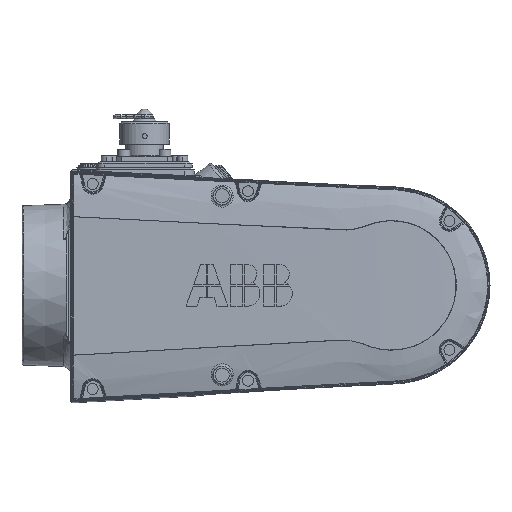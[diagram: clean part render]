
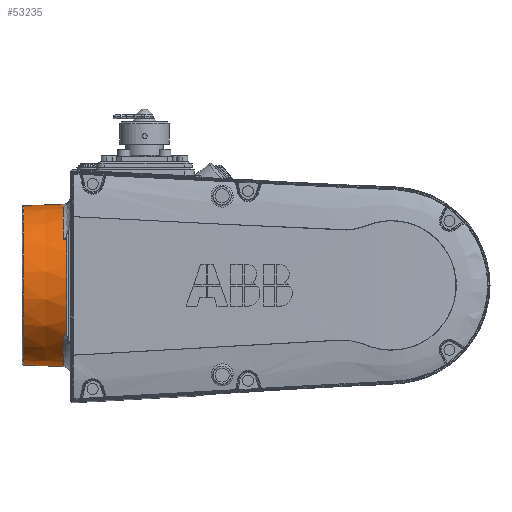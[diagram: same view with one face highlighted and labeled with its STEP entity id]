
A CAD part, front view. The second image highlights one B-rep face of the part: STEP entity #53235.
In plain terms, the highlighted conical face has half-angle 2 degrees and reference radius 40.786 mm.
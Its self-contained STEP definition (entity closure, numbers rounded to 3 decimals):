
#39 = EDGE_CURVE ( 'NONE', #16991, #3670, #37502, .T. ) ;
#52 = CARTESIAN_POINT ( 'NONE',  ( 286.555, -31.433, 863.189 ) ) ;
#95 = VECTOR ( 'NONE', #19401, 1000. ) ;
#313 = CARTESIAN_POINT ( 'NONE',  ( 286.583, -31.488, 863.255 ) ) ;
#814 = CARTESIAN_POINT ( 'NONE',  ( 287.29, -33.628, 912.136 ) ) ;
#1088 = CARTESIAN_POINT ( 'NONE',  ( 286.69, -33.524, 912.249 ) ) ;
#3660 = CARTESIAN_POINT ( 'NONE',  ( 287.991, -33.674, 912.111 ) ) ;
#3670 = VERTEX_POINT ( 'NONE', #8361 ) ;
#3866 = CARTESIAN_POINT ( 'NONE',  ( 287.118, -32.314, 864.264 ) ) ;
#5169 = CARTESIAN_POINT ( 'NONE',  ( 287.41, -33.641, 912.123 ) ) ;
#6444 = DIRECTION ( 'NONE',  ( 1., 0., 0. ) ) ;
#7418 = CARTESIAN_POINT ( 'NONE',  ( 287.411, -32.662, 864.703 ) ) ;
#7532 = ORIENTED_EDGE ( 'NONE', *, *, #8218, .F. ) ;
#7936 = CARTESIAN_POINT ( 'NONE',  ( 286.902, -32.027, 863.908 ) ) ;
#8218 = EDGE_CURVE ( 'NONE', #16991, #50795, #43538, .T. ) ;
#8361 = CARTESIAN_POINT ( 'NONE',  ( 266.456, 0., 849.066 ) ) ;
#9066 = CARTESIAN_POINT ( 'NONE',  ( 286.131, 0., 929.821 ) ) ;
#9221 = CARTESIAN_POINT ( 'NONE',  ( 287.153, -33.607, 912.157 ) ) ;
#9687 = CARTESIAN_POINT ( 'NONE',  ( 287.991, 0., 848.314 ) ) ;
#9755 = CARTESIAN_POINT ( 'NONE',  ( 287.038, -33.588, 912.178 ) ) ;
#10473 = VERTEX_POINT ( 'NONE', #10752 ) ;
#10644 = VERTEX_POINT ( 'NONE', #50000 ) ;
#10752 = CARTESIAN_POINT ( 'NONE',  ( 286.131, -33.318, 912.512 ) ) ;
#11864 = DIRECTION ( 'NONE',  ( -1., 0., 0. ) ) ;
#12007 = VERTEX_POINT ( 'NONE', #40667 ) ;
#13236 = DIRECTION ( 'NONE',  ( 0.999, 0., -0.035 ) ) ;
#13516 = DIRECTION ( 'NONE',  ( -1., 0., 0. ) ) ;
#13562 = CONICAL_SURFACE ( 'NONE', #41256, 40.786, 0.035 ) ;
#13834 = CARTESIAN_POINT ( 'NONE',  ( 287.056, -33.591, 912.175 ) ) ;
#15269 = DIRECTION ( 'NONE',  ( 0., 0., 1. ) ) ;
#15587 = ORIENTED_EDGE ( 'NONE', *, *, #32654, .T. ) ;
#15610 = B_SPLINE_CURVE_WITH_KNOTS ( 'NONE', 3,
 ( #40992, #40715, #28816, #48887, #20398, #32872, #36934, #28296, #20910, #52, #29086, #313, #49679, #41513, #7936, #40456, #16330, #3866, #16868, #28546, #19860, #7418, #44798, #53460 ),
 .UNSPECIFIED., .F., .F.,
 ( 4, 2, 2, 1, 1, 1, 2, 2, 2, 1, 1, 1, 2, 2, 4 ),
 ( 0., 0.125, 0.25, 0.375, 0.437, 0.469, 0.484, 0.5, 0.625, 0.687, 0.719, 0.734, 0.742, 0.75, 1. ),
 .UNSPECIFIED. ) ;
#16330 = CARTESIAN_POINT ( 'NONE',  ( 287.07, -32.254, 864.19 ) ) ;
#16868 = CARTESIAN_POINT ( 'NONE',  ( 287.139, -32.339, 864.296 ) ) ;
#16991 = VERTEX_POINT ( 'NONE', #29611 ) ;
#17015 = ORIENTED_EDGE ( 'NONE', *, *, #33010, .T. ) ;
#17351 = CARTESIAN_POINT ( 'NONE',  ( 286.394, -33.436, 912.36 ) ) ;
#18108 = AXIS2_PLACEMENT_3D ( 'NONE', #49604, #32549, #53127 ) ;
#18648 = DIRECTION ( 'NONE',  ( 0., 0., 1. ) ) ;
#19103 = CIRCLE ( 'NONE', #42414, 40.721 ) ;
#19233 = ORIENTED_EDGE ( 'NONE', *, *, #39160, .T. ) ;
#19341 = DIRECTION ( 'NONE',  ( 1., 0., 0. ) ) ;
#19401 = DIRECTION ( 'NONE',  ( 0.999, 0., 0.035 ) ) ;
#19698 = EDGE_CURVE ( 'NONE', #3670, #10644, #26267, .T. ) ;
#19860 = CARTESIAN_POINT ( 'NONE',  ( 287.159, -32.363, 864.327 ) ) ;
#20237 = ORIENTED_EDGE ( 'NONE', *, *, #34589, .T. ) ;
#20398 = CARTESIAN_POINT ( 'NONE',  ( 286.21, -30.418, 862.022 ) ) ;
#20910 = CARTESIAN_POINT ( 'NONE',  ( 286.528, -31.376, 863.122 ) ) ;
#21091 = DIRECTION ( 'NONE',  ( 0., 0., 1. ) ) ;
#21484 = CIRCLE ( 'NONE', #53502, 40.786 ) ;
#21971 = CARTESIAN_POINT ( 'NONE',  ( 287.095, -33.598, 912.167 ) ) ;
#22235 = CARTESIAN_POINT ( 'NONE',  ( 287.653, -33.664, 912.105 ) ) ;
#26267 = LINE ( 'NONE', #9687, #36576 ) ;
#27102 = CARTESIAN_POINT ( 'NONE',  ( 287.991, -33.143, 865.33 ) ) ;
#27194 = VERTEX_POINT ( 'NONE', #27102 ) ;
#27320 = CARTESIAN_POINT ( 'NONE',  ( 287.991, 0., 889.1 ) ) ;
#28296 = CARTESIAN_POINT ( 'NONE',  ( 286.468, -31.244, 862.966 ) ) ;
#28411 = DIRECTION ( 'NONE',  ( 0., 0., -1. ) ) ;
#28546 = CARTESIAN_POINT ( 'NONE',  ( 287.153, -32.356, 864.317 ) ) ;
#28816 = CARTESIAN_POINT ( 'NONE',  ( 286.14, -29.925, 861.482 ) ) ;
#29086 = CARTESIAN_POINT ( 'NONE',  ( 286.574, -31.47, 863.233 ) ) ;
#29611 = CARTESIAN_POINT ( 'NONE',  ( 266.456, 0., 929.134 ) ) ;
#29858 = EDGE_CURVE ( 'NONE', #12007, #27194, #15610, .T. ) ;
#30665 = EDGE_LOOP ( 'NONE', ( #35648, #36800, #19233, #34575, #17015, #15587, #20237, #7532 ) ) ;
#31573 = CARTESIAN_POINT ( 'NONE',  ( 266.456, 0., 889.1 ) ) ;
#32478 = CARTESIAN_POINT ( 'NONE',  ( 286.131, 0., 889.1 ) ) ;
#32549 = DIRECTION ( 'NONE',  ( -1., 0., 0. ) ) ;
#32654 = EDGE_CURVE ( 'NONE', #37729, #10473, #48986, .T. ) ;
#32872 = CARTESIAN_POINT ( 'NONE',  ( 286.288, -30.739, 862.383 ) ) ;
#33010 = EDGE_CURVE ( 'NONE', #27194, #37729, #21484, .T. ) ;
#33376 = CARTESIAN_POINT ( 'NONE',  ( 286.131, -33.318, 912.512 ) ) ;
#33567 = CIRCLE ( 'NONE', #18108, 40.721 ) ;
#33900 = CARTESIAN_POINT ( 'NONE',  ( 287.991, -33.674, 912.111 ) ) ;
#34575 = ORIENTED_EDGE ( 'NONE', *, *, #29858, .T. ) ;
#34589 = EDGE_CURVE ( 'NONE', #10473, #50795, #33567, .T. ) ;
#35405 = CARTESIAN_POINT ( 'NONE',  ( 287.991, 0., 929.886 ) ) ;
#35648 = ORIENTED_EDGE ( 'NONE', *, *, #39, .T. ) ;
#36576 = VECTOR ( 'NONE', #13236, 1000. ) ;
#36800 = ORIENTED_EDGE ( 'NONE', *, *, #19698, .T. ) ;
#36934 = CARTESIAN_POINT ( 'NONE',  ( 286.36, -30.976, 862.653 ) ) ;
#37502 = CIRCLE ( 'NONE', #47898, 40.034 ) ;
#37729 = VERTEX_POINT ( 'NONE', #3660 ) ;
#38958 = FACE_OUTER_BOUND ( 'NONE', #30665, .T. ) ;
#39160 = EDGE_CURVE ( 'NONE', #10644, #12007, #19103, .T. ) ;
#40456 = CARTESIAN_POINT ( 'NONE',  ( 286.977, -32.134, 864.039 ) ) ;
#40667 = CARTESIAN_POINT ( 'NONE',  ( 286.131, -29.595, 861.13 ) ) ;
#40715 = CARTESIAN_POINT ( 'NONE',  ( 286.131, -29.761, 861.305 ) ) ;
#40992 = CARTESIAN_POINT ( 'NONE',  ( 286.131, -29.595, 861.13 ) ) ;
#41256 = AXIS2_PLACEMENT_3D ( 'NONE', #27320, #6444, #18648 ) ;
#41513 = CARTESIAN_POINT ( 'NONE',  ( 286.758, -31.811, 863.643 ) ) ;
#42414 = AXIS2_PLACEMENT_3D ( 'NONE', #32478, #11864, #28411 ) ;
#42493 = CARTESIAN_POINT ( 'NONE',  ( 287.991, 0., 889.1 ) ) ;
#43538 = LINE ( 'NONE', #35405, #95 ) ;
#44798 = CARTESIAN_POINT ( 'NONE',  ( 287.686, -32.918, 865.034 ) ) ;
#47898 = AXIS2_PLACEMENT_3D ( 'NONE', #31573, #19341, #15269 ) ;
#48887 = CARTESIAN_POINT ( 'NONE',  ( 286.18, -30.253, 861.84 ) ) ;
#48986 = B_SPLINE_CURVE_WITH_KNOTS ( 'NONE', 3,
 ( #33900, #50425, #22235, #5169, #814, #9221, #21971, #13834, #9755, #1088, #17351, #33376 ),
 .UNSPECIFIED., .F., .F.,
 ( 4, 2, 1, 1, 2, 2, 4 ),
 ( 0., 0.25, 0.375, 0.437, 0.469, 0.5, 1. ),
 .UNSPECIFIED. ) ;
#49604 = CARTESIAN_POINT ( 'NONE',  ( 286.131, 0., 889.1 ) ) ;
#49679 = CARTESIAN_POINT ( 'NONE',  ( 286.671, -31.662, 863.462 ) ) ;
#50000 = CARTESIAN_POINT ( 'NONE',  ( 286.131, 0., 848.379 ) ) ;
#50425 = CARTESIAN_POINT ( 'NONE',  ( 287.82, -33.672, 912.103 ) ) ;
#50795 = VERTEX_POINT ( 'NONE', #9066 ) ;
#53127 = DIRECTION ( 'NONE',  ( 0., 0., -1. ) ) ;
#53235 = ADVANCED_FACE ( 'NONE', ( #38958 ), #13562, .T. ) ;
#53460 = CARTESIAN_POINT ( 'NONE',  ( 287.991, -33.143, 865.33 ) ) ;
#53502 = AXIS2_PLACEMENT_3D ( 'NONE', #42493, #13516, #21091 ) ;
